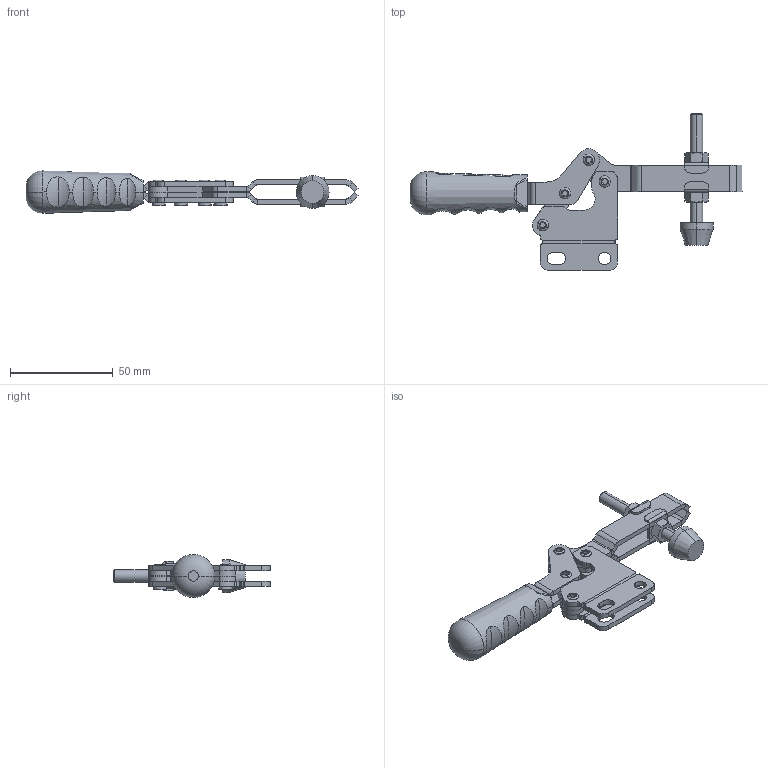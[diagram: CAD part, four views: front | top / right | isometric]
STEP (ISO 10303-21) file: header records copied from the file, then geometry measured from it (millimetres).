
FILE_DESCRIPTION (( 'STEP AP203' ), '1' );
FILE_NAME ('1202_D.STEP', '2022-11-22T14:27:39', ( '' ), ( '' ), 'SwSTEP 2.0', 'SolidWorks 2023', '' );
FILE_SCHEMA (( 'CONFIG_CONTROL_DESIGN' ));
Length unit declared in the file: millimetre
Products named in the file (13): Y_1205_GOVDE_Varsayılan; 1202_D; Y_1205_HareketKolu_Varsayılan; M6 Somun_Varsayılan; M6 Askı_Varsayılan; Y_1205_Mafsal_Varsayılan; M6 Baskı Grubu_Varsayılan; C55_Yeni_Tutamak_Varsayılan; M6 Baskı_Varsayılan; Y_1205_BaskıKolu_Varsayılan; Pim_4x12_5_Varsayılan; AynalamaY_1205_BaskıKolu_Varsayılan; AynalamaY_1205_HareketKolu_Varsayılan
Assembly tree (18 placements, depth 3):
  1202_D
    Y_1205_GOVDE_Varsayılan
    Y_1205_BaskıKolu_Varsayılan
    Y_1205_HareketKolu_Varsayılan
    Y_1205_Mafsal_Varsayılan  x2
    Pim_4x12_5_Varsayılan  x4
    M6 Baskı Grubu_Varsayılan
      M6 Baskı_Varsayılan
      M6 Askı_Varsayılan  x2
      M6 Somun_Varsayılan  x2
    AynalamaY_1205_HareketKolu_Varsayılan
    AynalamaY_1205_BaskıKolu_Varsayılan
    C55_Yeni_Tutamak_Varsayılan
Bounding box: 161.48 x 76.08 x 20.98 mm (x, y, z)
Volume: 36201.8 mm3; surface area: 29014.7 mm2
Topology: 18 solids, 18 shells, 871 faces, 2213 edges, 1404 vertices
Faces by surface type: plane 503, cylinder 252, bspline 60, torus 34, cone 22
Entity records: 24337 total; most frequent: CARTESIAN_POINT 7278, ORIENTED_EDGE 3304, DIRECTION 3098, EDGE_CURVE 1652, LINE 1058, VECTOR 1058, VERTEX_POINT 1054, AXIS2_PLACEMENT_3D 1020
